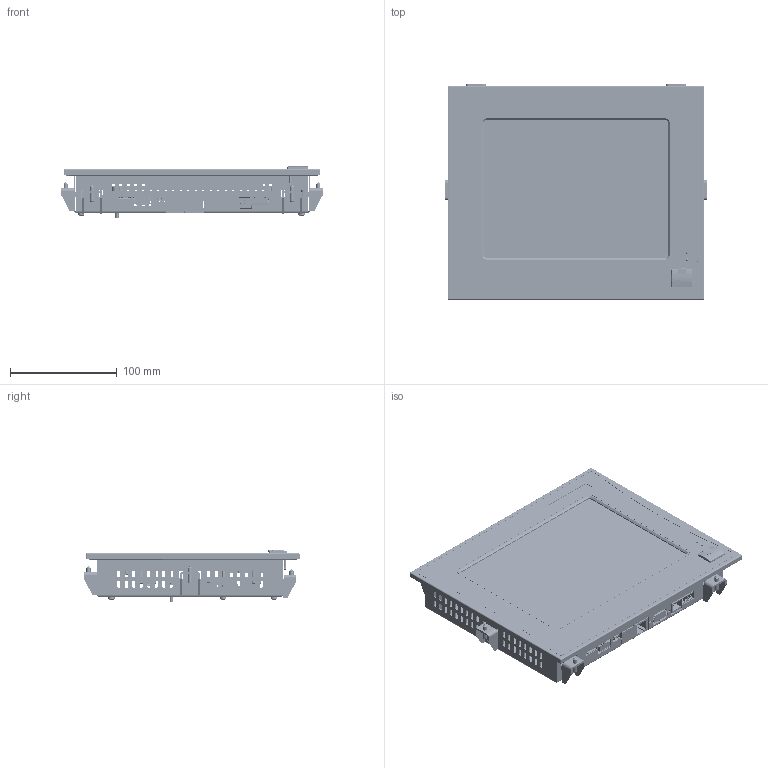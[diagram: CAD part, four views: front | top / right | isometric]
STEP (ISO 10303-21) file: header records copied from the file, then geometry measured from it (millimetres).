
FILE_DESCRIPTION (( 'STEP AP203' ), '1' );
FILE_NAME ('ETV0851.STEP', '2010-07-09T13:46:23', ( 'Anwender' ), ( 'SIGMATEK GMBH & CO KG' ), 'SwSTEP 2.0', 'SolidWorks 2009', '' );
FILE_SCHEMA (( 'CONFIG_CONTROL_DESIGN' ));
Products named in the file (1): ETV0851
Bounding box: 244 x 201.5 x 48.44 mm (x, y, z)
Surface area: 518005.8 mm2 (no closed solid volume)
Topology: 0 solids, 117 shells, 12298 faces, 33337 edges, 21281 vertices
Faces by surface type: plane 8142, cylinder 3323, bspline 441, cone 283, torus 83, sphere 26
Full cylindrical faces by diameter (mm): 0.2 x1, 0.9 x1
Entity records: 408970 total; most frequent: CARTESIAN_POINT 99434, ORIENTED_EDGE 66508, DIRECTION 61279, EDGE_CURVE 33264, VECTOR 23383, LINE 23383, VERTEX_POINT 21281, AXIS2_PLACEMENT_3D 18948
